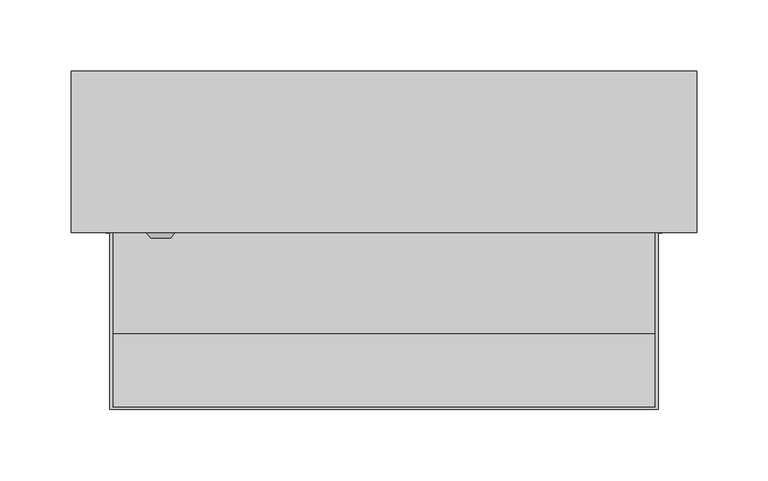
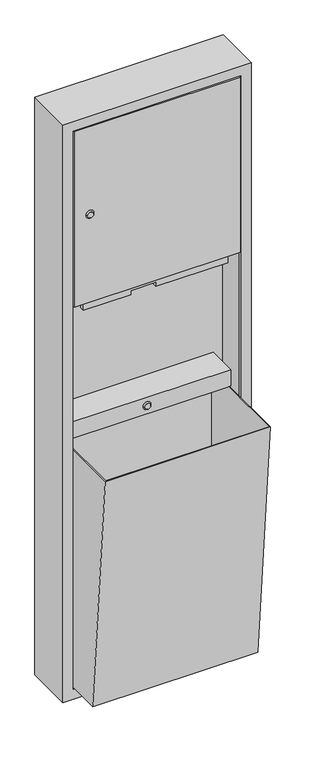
"""IFC4 building model written with IfcOpenShell, lengths in millimetres: proxy geometry, Paper Dispenser and Waste_Metlam_Surface Mounted_49L Waste : 438w x 237d x 1420h (ML705SM_MK2)."""

from ifc_helpers import new_model, si_unit, frame, origin, place, context, project, spatial, polyline, circle_curve, outline, extrude, faceted_brep, source, transform, mapped, element, save
from ifc_brep_helpers import plane_surface, revolved_surface, advanced_brep


def specialty_equipment_918cf13b(model_context):
    return source(origin(), model_context, "Body", "SolidModel", [
        extrude(outline(polyline([(193.0, -113.0), (-193.0, -113.0), (-193.0, -107.0), (193.0, -107.0), (193.0, -113.0)])), frame((0.0, 0.0, 1363.0), z_axis=(0.0, 0.0, 1.0), x_axis=(1.0, 0.0, 0.0)), (0.0, 0.0, 1.0), 431.0),
        extrude(outline(polyline([(1343.0, -168.0), (1343.0, -58.0), (1353.0, -58.0), (1353.0, 0.0), (1343.0, 0.0), (1343.0, 168.0), (1363.0, 168.0), (1363.0, -168.0), (1343.0, -168.0)])), frame((0.0, -107.0, 0.0), z_axis=(0.0, 1.0, 0.0), x_axis=(0.0, 0.0, 1.0)), (0.0, 0.0, 1.0), 10.0),
        faceted_brep([(-219.0, -113.0, 1820.0), (-219.0, -113.0, 400.0), (219.0, -113.0, 400.0), (219.0, -113.0, 1820.0), (-195.0, -113.0, 1796.0), (195.0, -113.0, 1796.0), (195.0, -113.0, 424.0), (192.0, -113.0, 424.0), (-192.0, -113.0, 424.0), (-195.0, -113.0, 424.0), (-219.0, 0.0, 1820.0), (219.0, 0.0, 1820.0), (219.0, 0.0, 400.0), (-219.0, 0.0, 400.0), (-219.0, -107.0, 1820.0), (-219.0, -2.0, 1820.0), (-219.0, -2.0, 400.0), (-219.0, -107.0, 400.0), (219.0, -2.0, 400.0), (219.0, -107.0, 400.0), (219.0, -2.0, 1820.0), (219.0, -107.0, 1820.0), (-217.0, -2.0, 1818.0), (217.0, -2.0, 1818.0), (217.0, -107.0, 1818.0), (-217.0, -107.0, 1818.0), (217.0, -2.0, 402.0), (217.0, -107.0, 402.0), (-217.0, -2.0, 402.0), (-217.0, -107.0, 402.0), (192.0, -2.0, 424.0), (-192.0, -2.0, 424.0), (-192.0, -2.0, 1009.0), (-193.0, -2.0, 1009.0), (-193.0, -2.0, 1049.0), (195.0, -2.0, 1049.0), (195.0, -2.0, 1009.0), (192.0, -2.0, 1009.0), (-190.0, -2.0, 426.0), (190.0, -2.0, 426.0), (190.0, -2.0, 1009.0), (-190.0, -2.0, 1009.0), (-195.0, -107.0, 1796.0), (-195.0, -107.0, 424.0), (-192.0, -107.0, 424.0), (192.0, -107.0, 424.0), (195.0, -107.0, 424.0), (195.0, -107.0, 1796.0), (-190.0, -183.8191318, 426.0), (190.0, -183.8191318, 426.0), (-190.0, -72.0, 1009.0), (-190.0, -235.0, 1009.0), (190.0, -235.0, 1009.0), (190.0, -72.0, 1009.0), (-193.0, -72.0, 1049.0), (-193.0, -72.0, 1009.0), (-192.0, -72.0, 1009.0), (192.0, -72.0, 1009.0), (195.0, -72.0, 1009.0), (195.0, -72.0, 1049.0), (-192.0, -237.0, 1009.0), (192.0, -237.0, 1009.0), (192.0, -185.8191318, 424.0), (-192.0, -185.8191318, 424.0)], [[[0, 1, 2, 3], [4, 5, 6, 7, 8, 9]], [[10, 11, 12, 13]], [[1, 0, 14, 15, 10, 13, 16, 17]], [[2, 1, 17, 16, 13, 12, 18, 19]], [[3, 2, 19, 18, 12, 11, 20, 21]], [[0, 3, 21, 20, 11, 10, 15, 14]], [[22, 23, 24, 25]], [[23, 26, 27, 24]], [[26, 28, 29, 27]], [[28, 22, 25, 29]], [[23, 22, 28, 26], [30, 31, 32, 33, 34, 35, 36, 37]], [[38, 39, 40, 41]], [[25, 24, 27, 29], [42, 43, 44, 45, 46, 47]], [[5, 4, 42, 47]], [[6, 5, 47, 46]], [[6, 46, 45, 7]], [[43, 9, 8, 44]], [[4, 9, 43, 42]], [[39, 38, 48, 49]], [[48, 38, 41, 50, 51]], [[49, 48, 51, 52]], [[39, 49, 52, 53, 40]], [[54, 55, 56, 50, 53, 57, 58, 59]], [[55, 54, 34, 33]], [[53, 50, 41, 40]], [[55, 33, 32, 56]], [[36, 58, 57, 37]], [[59, 58, 36, 35]], [[54, 59, 35, 34]], [[60, 61, 57, 53, 52, 51, 50, 56]], [[62, 63, 8, 7]], [[44, 31, 30, 45]], [[63, 60, 56, 32, 31, 44, 8]], [[61, 60, 63, 62]], [[61, 62, 7, 45, 30, 37, 57]]]),
        advanced_brep(
        [(-7.0, -76.0, 1029.0), (7.0, -76.0, 1029.0), (-10.0, -72.0, 1029.0), (10.0, -72.0, 1029.0)],
        [
            (0, 1, circle_curve(frame((0.0, -76.0, 1029.0), z_axis=(0.0, -1.0, 0.0), x_axis=(-1.0, 0.0, 0.0)), 7.0)),
            (1, 0, circle_curve(frame((0.0, -76.0, 1029.0), z_axis=(0.0, -1.0, 0.0), x_axis=(1.0, 0.0, 0.0)), 7.0)),
            (2, 3, circle_curve(frame((0.0, -72.0, 1029.0), z_axis=(0.0, 1.0, 0.0), x_axis=(1.0, 0.0, 0.0)), 10.0)),
            (3, 2, circle_curve(frame((0.0, -72.0, 1029.0), z_axis=(0.0, 1.0, 0.0), x_axis=(-1.0, 0.0, 0.0)), 10.0)),
            (3, 1),
            (0, 2),
        ],
        [
            plane_surface(frame((0.0, -76.0, 1029.0), z_axis=(0.0, -1.0, 0.0), x_axis=(0.0, 0.0, -1.0))),
            plane_surface(frame((0.0, -72.0, 1029.0), z_axis=(0.0, 1.0, 0.0), x_axis=(0.0, 0.0, -1.0))),
            revolved_surface(polyline([(-6.999999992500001, -76.0, 1029.0), (-10.0, -72.0, 1029.0)]), (0.0, -85.3333333, 1029.0), (0.0, 1.0, 0.0)),
            revolved_surface(polyline([(6.999999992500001, -76.0, 1029.0), (10.0, -72.0, 1029.0)]), (0.0, -85.3333333, 1029.0), (0.0, 1.0, 0.0)),
        ],
        [
            (0, [[1, 2]]),
            (1, [[3, 4]]),
            (2, [[-4, 5, -1, 6]]),
            (3, [[-3, -6, -2, -5]]),
        ],
    ),
        advanced_brep(
        [(-163.489541, -117.0, 1579.5), (-149.489541, -117.0, 1579.5), (-166.489541, -113.0, 1579.5), (-146.489541, -113.0, 1579.5)],
        [
            (0, 1, circle_curve(frame((-156.489541, -117.0, 1579.5), z_axis=(0.0, -1.0, 0.0), x_axis=(-1.0, 0.0, 0.0)), 7.0)),
            (1, 0, circle_curve(frame((-156.489541, -117.0, 1579.5), z_axis=(0.0, -1.0, 0.0), x_axis=(1.0, 0.0, 0.0)), 7.0)),
            (2, 3, circle_curve(frame((-156.489541, -113.0, 1579.5), z_axis=(0.0, 1.0, 0.0), x_axis=(1.0, 0.0, 0.0)), 10.0)),
            (3, 2, circle_curve(frame((-156.489541, -113.0, 1579.5), z_axis=(0.0, 1.0, 0.0), x_axis=(-1.0, 0.0, 0.0)), 10.0)),
            (3, 1),
            (0, 2),
        ],
        [
            plane_surface(frame((-156.489541, -117.0, 1579.5), z_axis=(0.0, -1.0, 0.0), x_axis=(0.0, 0.0, -1.0))),
            plane_surface(frame((-156.489541, -113.0, 1579.5), z_axis=(0.0, 1.0, 0.0), x_axis=(0.0, 0.0, -1.0))),
            revolved_surface(polyline([(-163.4895409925, -117.0, 1579.5), (-166.489541, -113.0, 1579.5)]), (-156.489541, -126.3333333, 1579.5), (0.0, 1.0, 0.0)),
            revolved_surface(polyline([(-149.4895410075, -117.0, 1579.5), (-146.489541, -113.0, 1579.5)]), (-156.489541, -126.3333333, 1579.5), (0.0, 1.0, 0.0)),
        ],
        [
            (0, [[1, 2]]),
            (1, [[3, 4]]),
            (2, [[-4, 5, -1, 6]]),
            (3, [[-3, -6, -2, -5]]),
        ],
    ),
    ])


if __name__ == "__main__":
    model = new_model("IFC4")
    model_context = context("Model", 3, world=origin())
    ifc_project = project(units=[si_unit("LENGTHUNIT", "METRE", prefix="MILLI")], contexts=[model_context])
    site = spatial("IfcSite", under=ifc_project)
    building = spatial("IfcBuilding", under=site)
    placement = place(None, origin())
    specialty_equipment_shape = specialty_equipment_918cf13b(model_context)
    element("IfcBuildingElementProxy", 1, Name="Paper Dispenser and Waste_Metlam_Surface Mounted_49L Waste : 438w x 237d x 1420h (ML705SM_MK2)", ObjectType="Paper Dispenser and Waste_Metlam_Surface Mounted_49L Waste : 438w x 237d x 1420h (ML705SM_MK2)", at=placement, inside=building, context=model_context, shape_type="MappedRepresentation", body=[
        mapped(specialty_equipment_shape, transform((0.0, 0.0, 0.0), x_axis=(1.0, 0.0, 0.0), y_axis=(0.0, 1.0, 0.0), z_axis=(0.0, 0.0, 1.0))),
    ])
    save(model, "model.ifc")
